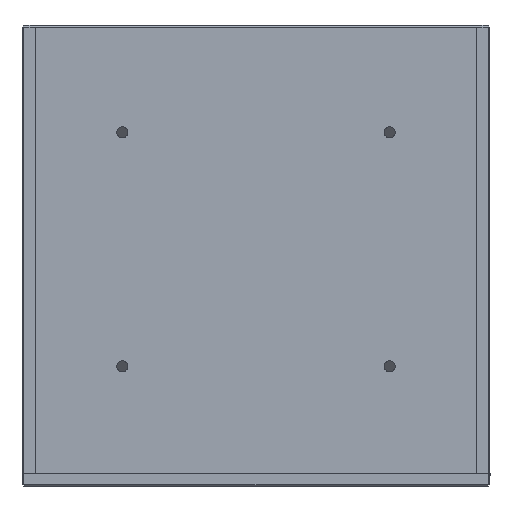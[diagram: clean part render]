
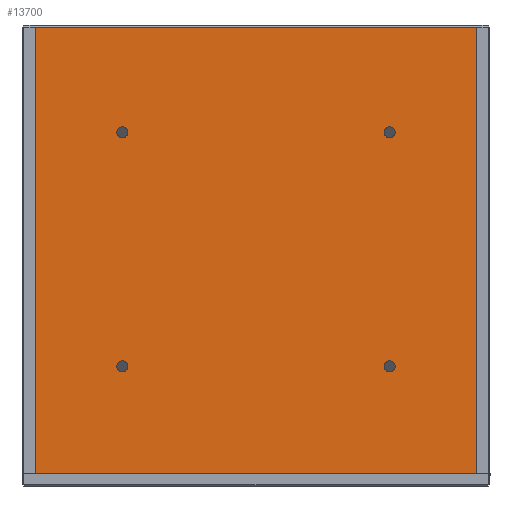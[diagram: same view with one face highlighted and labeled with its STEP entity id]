
A CAD part, left-side view. The second image highlights one B-rep face of the part: STEP entity #13700.
In plain terms, the highlighted planar face has unit normal (-1, 0, 0).
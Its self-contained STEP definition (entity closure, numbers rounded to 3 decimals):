
#179 = EDGE_CURVE ( 'NONE', #7578, #13677, #11406, .T. ) ;
#187 = DIRECTION ( 'NONE',  ( -1., 0., 0. ) ) ;
#653 = AXIS2_PLACEMENT_3D ( 'NONE', #12757, #10305, #12806 ) ;
#675 = CARTESIAN_POINT ( 'NONE',  ( -91., 40., 36. ) ) ;
#710 = AXIS2_PLACEMENT_3D ( 'NONE', #8217, #187, #12822 ) ;
#885 = EDGE_LOOP ( 'NONE', ( #10330, #4886 ) ) ;
#1073 = DIRECTION ( 'NONE',  ( 0., 0., -1. ) ) ;
#1265 = ORIENTED_EDGE ( 'NONE', *, *, #4550, .F. ) ;
#1494 = LINE ( 'NONE', #7271, #8938 ) ;
#1576 = AXIS2_PLACEMENT_3D ( 'NONE', #8015, #14917, #8942 ) ;
#1709 = ORIENTED_EDGE ( 'NONE', *, *, #13201, .F. ) ;
#1716 = LINE ( 'NONE', #13956, #2984 ) ;
#1727 = EDGE_CURVE ( 'NONE', #9457, #8939, #5331, .T. ) ;
#1802 = VERTEX_POINT ( 'NONE', #14778 ) ;
#2088 = ORIENTED_EDGE ( 'NONE', *, *, #8218, .F. ) ;
#2168 = CARTESIAN_POINT ( 'NONE',  ( -91., -40., 34.35 ) ) ;
#2383 = CARTESIAN_POINT ( 'NONE',  ( -91., 66., 4. ) ) ;
#2613 = FACE_OUTER_BOUND ( 'NONE', #4558, .T. ) ;
#2830 = EDGE_CURVE ( 'NONE', #1802, #7946, #13231, .T. ) ;
#2960 = DIRECTION ( 'NONE',  ( 0., 0., 1. ) ) ;
#2984 = VECTOR ( 'NONE', #1073, 1000. ) ;
#3066 = DIRECTION ( 'NONE',  ( 0., 0., 1. ) ) ;
#3143 = FACE_BOUND ( 'NONE', #13513, .T. ) ;
#3507 = CARTESIAN_POINT ( 'NONE',  ( -91., 40., 104.35 ) ) ;
#3698 = CARTESIAN_POINT ( 'NONE',  ( -91., 40., 106. ) ) ;
#3846 = CIRCLE ( 'NONE', #14486, 1.65 ) ;
#4217 = FACE_BOUND ( 'NONE', #13236, .T. ) ;
#4410 = DIRECTION ( 'NONE',  ( 0., 0., 1. ) ) ;
#4489 = VERTEX_POINT ( 'NONE', #9660 ) ;
#4550 = EDGE_CURVE ( 'NONE', #7946, #1802, #12425, .T. ) ;
#4558 = EDGE_LOOP ( 'NONE', ( #1709, #6569, #6939, #5196 ) ) ;
#4606 = VECTOR ( 'NONE', #2960, 1000. ) ;
#4804 = DIRECTION ( 'NONE',  ( 0., 1., 0. ) ) ;
#4886 = ORIENTED_EDGE ( 'NONE', *, *, #5539, .F. ) ;
#4913 = CIRCLE ( 'NONE', #5024, 1.65 ) ;
#4987 = DIRECTION ( 'NONE',  ( -1., 0., 0. ) ) ;
#5024 = AXIS2_PLACEMENT_3D ( 'NONE', #3698, #12932, #10583 ) ;
#5102 = AXIS2_PLACEMENT_3D ( 'NONE', #12534, #10190, #3066 ) ;
#5124 = DIRECTION ( 'NONE',  ( 0., 0., 1. ) ) ;
#5148 = ORIENTED_EDGE ( 'NONE', *, *, #12513, .F. ) ;
#5196 = ORIENTED_EDGE ( 'NONE', *, *, #5582, .F. ) ;
#5331 = LINE ( 'NONE', #14589, #4606 ) ;
#5539 = EDGE_CURVE ( 'NONE', #5611, #10623, #3846, .T. ) ;
#5582 = EDGE_CURVE ( 'NONE', #14586, #9457, #1494, .T. ) ;
#5611 = VERTEX_POINT ( 'NONE', #10847 ) ;
#6172 = EDGE_CURVE ( 'NONE', #10623, #5611, #14956, .T. ) ;
#6298 = CARTESIAN_POINT ( 'NONE',  ( -91., -66., 137.5 ) ) ;
#6432 = LINE ( 'NONE', #11792, #13751 ) ;
#6569 = ORIENTED_EDGE ( 'NONE', *, *, #12205, .T. ) ;
#6939 = ORIENTED_EDGE ( 'NONE', *, *, #1727, .F. ) ;
#7271 = CARTESIAN_POINT ( 'NONE',  ( -91., 66., 4. ) ) ;
#7502 = AXIS2_PLACEMENT_3D ( 'NONE', #675, #8760, #4410 ) ;
#7578 = VERTEX_POINT ( 'NONE', #9655 ) ;
#7946 = VERTEX_POINT ( 'NONE', #11770 ) ;
#8015 = CARTESIAN_POINT ( 'NONE',  ( -91., 0., 71. ) ) ;
#8167 = EDGE_LOOP ( 'NONE', ( #10946, #5148 ) ) ;
#8177 = VERTEX_POINT ( 'NONE', #6298 ) ;
#8217 = CARTESIAN_POINT ( 'NONE',  ( -91., -40., 106. ) ) ;
#8218 = EDGE_CURVE ( 'NONE', #13677, #7578, #15077, .T. ) ;
#8464 = DIRECTION ( 'NONE',  ( 0., 1., 0. ) ) ;
#8559 = CARTESIAN_POINT ( 'NONE',  ( -91., -40., 107.65 ) ) ;
#8760 = DIRECTION ( 'NONE',  ( -1., 0., 0. ) ) ;
#8895 = CARTESIAN_POINT ( 'NONE',  ( -91., -66., 4. ) ) ;
#8932 = CARTESIAN_POINT ( 'NONE',  ( -91., 40., 106. ) ) ;
#8938 = VECTOR ( 'NONE', #8464, 1000. ) ;
#8939 = VERTEX_POINT ( 'NONE', #12883 ) ;
#8942 = DIRECTION ( 'NONE',  ( 0., 0., -1. ) ) ;
#8946 = EDGE_CURVE ( 'NONE', #4489, #13166, #4913, .T. ) ;
#9381 = CIRCLE ( 'NONE', #11194, 1.65 ) ;
#9457 = VERTEX_POINT ( 'NONE', #2383 ) ;
#9600 = CARTESIAN_POINT ( 'NONE',  ( -91., 40., 36. ) ) ;
#9655 = CARTESIAN_POINT ( 'NONE',  ( -91., -40., 37.65 ) ) ;
#9660 = CARTESIAN_POINT ( 'NONE',  ( -91., 40., 107.65 ) ) ;
#10114 = DIRECTION ( 'NONE',  ( 0., 0., 1. ) ) ;
#10190 = DIRECTION ( 'NONE',  ( -1., 0., 0. ) ) ;
#10305 = DIRECTION ( 'NONE',  ( -1., 0., 0. ) ) ;
#10330 = ORIENTED_EDGE ( 'NONE', *, *, #6172, .F. ) ;
#10583 = DIRECTION ( 'NONE',  ( 0., 0., 1. ) ) ;
#10623 = VERTEX_POINT ( 'NONE', #8559 ) ;
#10847 = CARTESIAN_POINT ( 'NONE',  ( -91., -40., 104.35 ) ) ;
#10866 = ORIENTED_EDGE ( 'NONE', *, *, #179, .F. ) ;
#10913 = AXIS2_PLACEMENT_3D ( 'NONE', #9600, #4987, #5124 ) ;
#10946 = ORIENTED_EDGE ( 'NONE', *, *, #8946, .F. ) ;
#11194 = AXIS2_PLACEMENT_3D ( 'NONE', #8932, #11366, #10114 ) ;
#11366 = DIRECTION ( 'NONE',  ( -1., 0., 0. ) ) ;
#11406 = CIRCLE ( 'NONE', #653, 1.65 ) ;
#11515 = FACE_BOUND ( 'NONE', #885, .T. ) ;
#11770 = CARTESIAN_POINT ( 'NONE',  ( -91., 40., 34.35 ) ) ;
#11792 = CARTESIAN_POINT ( 'NONE',  ( -91., 0., 137.5 ) ) ;
#12129 = ORIENTED_EDGE ( 'NONE', *, *, #2830, .F. ) ;
#12205 = EDGE_CURVE ( 'NONE', #8177, #8939, #6432, .T. ) ;
#12425 = CIRCLE ( 'NONE', #7502, 1.65 ) ;
#12513 = EDGE_CURVE ( 'NONE', #13166, #4489, #9381, .T. ) ;
#12534 = CARTESIAN_POINT ( 'NONE',  ( -91., -40., 36. ) ) ;
#12611 = PLANE ( 'NONE',  #1576 ) ;
#12757 = CARTESIAN_POINT ( 'NONE',  ( -91., -40., 36. ) ) ;
#12806 = DIRECTION ( 'NONE',  ( 0., 0., 1. ) ) ;
#12822 = DIRECTION ( 'NONE',  ( 0., 0., 1. ) ) ;
#12883 = CARTESIAN_POINT ( 'NONE',  ( -91., 66., 137.5 ) ) ;
#12932 = DIRECTION ( 'NONE',  ( -1., 0., 0. ) ) ;
#13008 = DIRECTION ( 'NONE',  ( 0., 0., 1. ) ) ;
#13166 = VERTEX_POINT ( 'NONE', #3507 ) ;
#13201 = EDGE_CURVE ( 'NONE', #8177, #14586, #1716, .T. ) ;
#13231 = CIRCLE ( 'NONE', #10913, 1.65 ) ;
#13236 = EDGE_LOOP ( 'NONE', ( #12129, #1265 ) ) ;
#13513 = EDGE_LOOP ( 'NONE', ( #10866, #2088 ) ) ;
#13534 = FACE_BOUND ( 'NONE', #8167, .T. ) ;
#13677 = VERTEX_POINT ( 'NONE', #2168 ) ;
#13700 = ADVANCED_FACE ( 'NONE', ( #4217, #13534, #3143, #11515, #2613 ), #12611, .F. ) ;
#13751 = VECTOR ( 'NONE', #4804, 1000. ) ;
#13956 = CARTESIAN_POINT ( 'NONE',  ( -91., -66., 138. ) ) ;
#14073 = CARTESIAN_POINT ( 'NONE',  ( -91., -40., 106. ) ) ;
#14235 = DIRECTION ( 'NONE',  ( -1., 0., 0. ) ) ;
#14486 = AXIS2_PLACEMENT_3D ( 'NONE', #14073, #14235, #13008 ) ;
#14586 = VERTEX_POINT ( 'NONE', #8895 ) ;
#14589 = CARTESIAN_POINT ( 'NONE',  ( -91., 66., 138. ) ) ;
#14778 = CARTESIAN_POINT ( 'NONE',  ( -91., 40., 37.65 ) ) ;
#14917 = DIRECTION ( 'NONE',  ( 1., 0., 0. ) ) ;
#14956 = CIRCLE ( 'NONE', #710, 1.65 ) ;
#15077 = CIRCLE ( 'NONE', #5102, 1.65 ) ;
